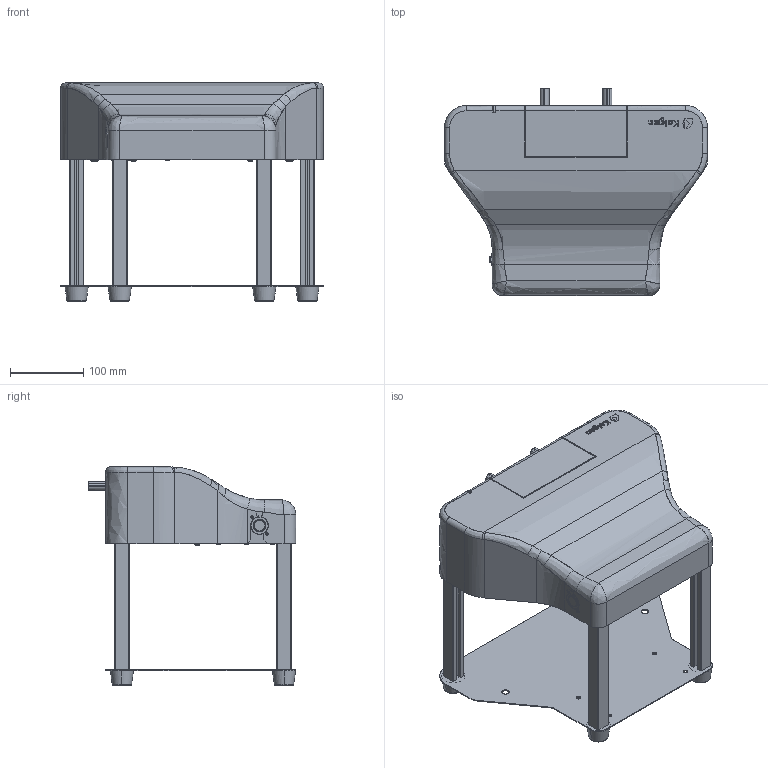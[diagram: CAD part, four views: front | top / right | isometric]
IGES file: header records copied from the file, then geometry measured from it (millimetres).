
Start section: SolidWorks IGES file using analytic representation for surfaces
Bounding box: 360 x 284 x 299.4 mm (x, y, z)
Surface area: 635751.8 mm2 (no closed solid volume)
Topology: 0 solids, 0 shells, 1052 faces, 9317 edges, 9315 vertices
Faces by surface type: bspline 732, revolution 320
